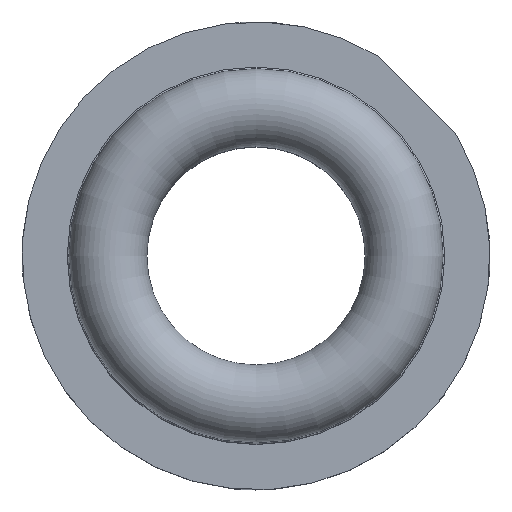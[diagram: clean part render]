
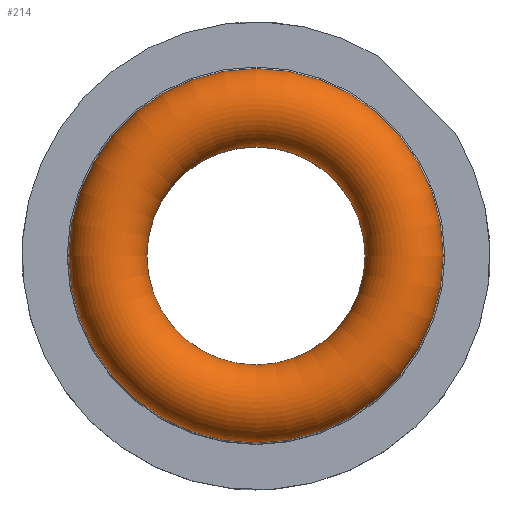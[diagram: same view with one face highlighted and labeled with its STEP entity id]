
A CAD part, top view. The second image highlights one B-rep face of the part: STEP entity #214.
In plain terms, the highlighted toroidal (fillet/blend) face has major radius 19 mm and minor radius 5 mm.
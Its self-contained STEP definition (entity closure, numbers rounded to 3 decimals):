
#214=ADVANCED_FACE('',(#404,#405),#406,.T.);
#404=FACE_OUTER_BOUND('',#602,.T.);
#405=FACE_OUTER_BOUND('',#603,.T.);
#406=TOROIDAL_SURFACE('',#604,19.0,5.0);
#602=EDGE_LOOP('',(#836));
#603=EDGE_LOOP('',(#837));
#604=AXIS2_PLACEMENT_3D('',#838,#839,#840);
#836=ORIENTED_EDGE('',*,*,#1027,.F.);
#837=ORIENTED_EDGE('',*,*,#1008,.F.);
#838=CARTESIAN_POINT('',(0.0,0.0,19.075));
#839=DIRECTION('',(0.0,0.0,-1.0));
#840=DIRECTION('',(-1.0,0.0,0.0));
#1008=EDGE_CURVE('',#1120,#1120,#1121,.T.);
#1027=EDGE_CURVE('',#1150,#1150,#1151,.T.);
#1120=VERTEX_POINT('',#1264);
#1121=CIRCLE('',#1265,14.0);
#1150=VERTEX_POINT('',#1294);
#1151=CIRCLE('',#1295,24.0);
#1264=CARTESIAN_POINT('',(-14.0,0.0,19.075));
#1265=AXIS2_PLACEMENT_3D('',#1725,#1726,#1727);
#1294=CARTESIAN_POINT('',(-24.0,0.0,19.075));
#1295=AXIS2_PLACEMENT_3D('',#1758,#1759,#1760);
#1725=CARTESIAN_POINT('',(0.0,0.0,19.075));
#1726=DIRECTION('',(0.0,0.0,1.0));
#1727=DIRECTION('',(-1.0,0.0,0.0));
#1758=CARTESIAN_POINT('',(0.0,0.0,19.075));
#1759=DIRECTION('',(0.0,0.0,-1.0));
#1760=DIRECTION('',(-1.0,0.0,0.0));
